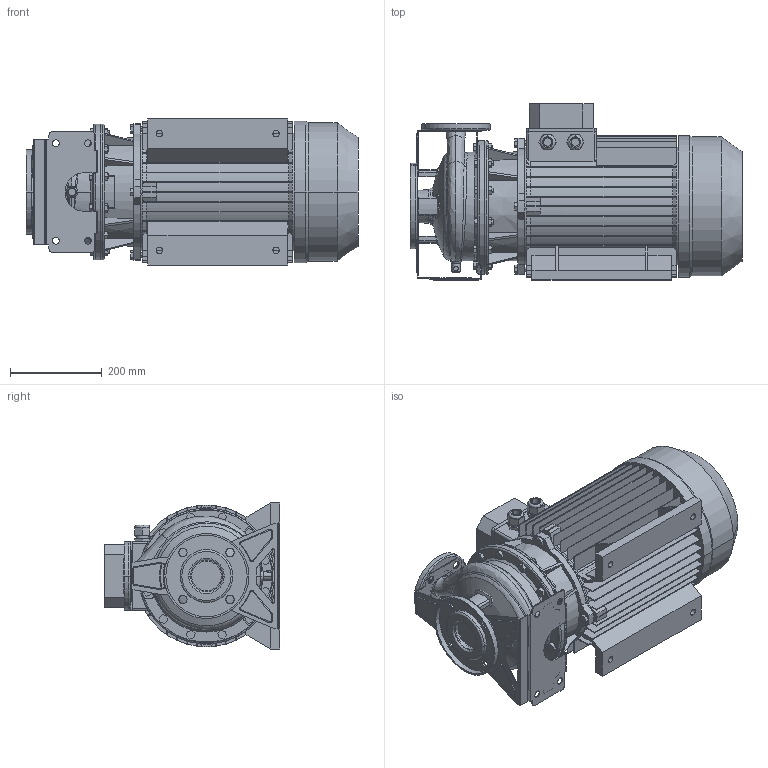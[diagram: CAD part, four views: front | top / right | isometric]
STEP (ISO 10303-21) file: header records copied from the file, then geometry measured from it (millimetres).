
FILE_DESCRIPTION((''),'2;1');
FILE_NAME('3M_40-200_156_E_ASM','2011-07-06T',('Utente'),('"Ebara Pumps Europe +39.444.706811"'),'PRO/ENGINEER BY PARAMETRIC TECHNOLOGY CORPORATION, 2009360','PRO/ENGINEER BY PARAMETRIC TECHNOLOGY CORPORATION, 2009360','');
FILE_SCHEMA(('AUTOMOTIVE_DESIGN { 1 0 10303 214 1 1 1 1 }'));
Length unit declared in the file: millimetre
Products named in the file (10): MEC_160X170_210_250_IE2; SUPPORTO_3M_230_160; CORPO_40-200; ASP_40-200; FLANGIA_DIN_65; MAND_40-200; FLANGIA_DIN_40; BASE_3M_40-200; CORPO_SALDATO_40-200_ASM; 3M_40-200_156_E_ASM
Assembly tree (9 placements, depth 3):
  3M_40-200_156_E_ASM
    MEC_160X170_210_250_IE2
    SUPPORTO_3M_230_160
    CORPO_SALDATO_40-200_ASM
      CORPO_40-200
      ASP_40-200
      FLANGIA_DIN_65
      MAND_40-200
      FLANGIA_DIN_40
      BASE_3M_40-200
Bounding box: 723 x 383 x 318 mm (x, y, z)
Volume: 24490462.5 mm3; surface area: 2541220.4 mm2
Topology: 11 solids, 13 shells, 1248 faces, 3179 edges, 2032 vertices
Faces by surface type: plane 718, cylinder 332, cone 96, torus 62, bspline 34, sphere 6
Entity records: 53229 total; most frequent: CARTESIAN_POINT 10095, DIRECTION 6472, ORIENTED_EDGE 6358, PRESENTATION_STYLE_ASSIGNMENT 3190, STYLED_ITEM 3190, CURVE_STYLE 3179, EDGE_CURVE 3179, AXIS2_PLACEMENT_3D 2281
